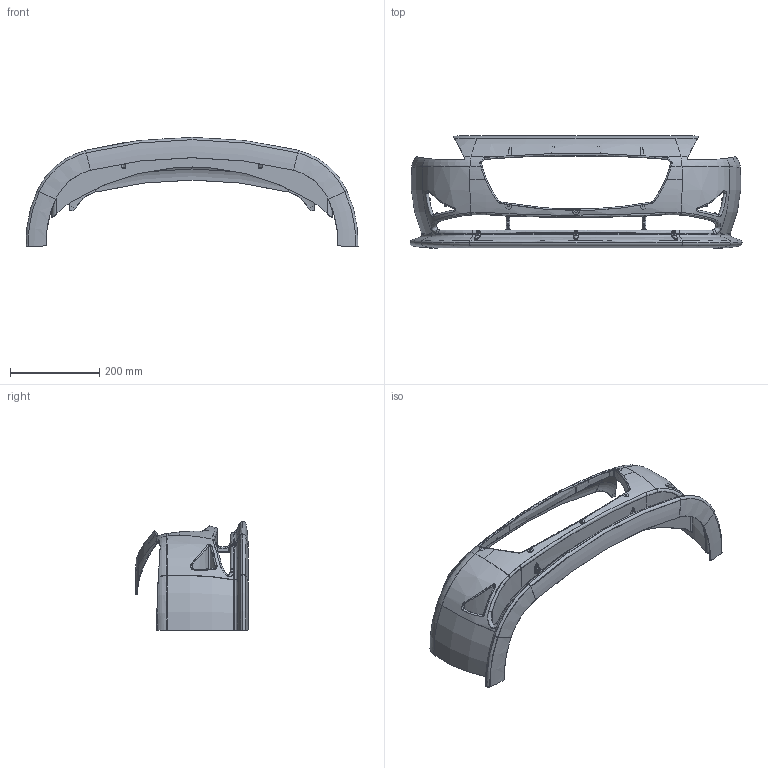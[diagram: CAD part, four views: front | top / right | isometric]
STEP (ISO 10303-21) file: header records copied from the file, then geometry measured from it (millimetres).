
FILE_DESCRIPTION(('STEP AP214'),'1');
FILE_NAME('frontschuerze-bumper.stp','2020-07-21T01:29:23',('3D-Tool'),(' '),'Spatial InterOp 3D',' ',' ');
FILE_SCHEMA(('AUTOMOTIVE_DESIGN { 1 0 10303 214 1 1 1 1 }'));
Length unit declared in the file: millimetre
Products named in the file (2): FRONTSCHUERZE_ZSB_ASM; FRONTSCHUERZE
Assembly tree (1 placements, depth 2):
  FRONTSCHUERZE_ZSB_ASM
    FRONTSCHUERZE
Bounding box: 743.32 x 250.86 x 244.46 mm (x, y, z)
Volume: 534869.6 mm3; surface area: 711347.8 mm2
Topology: 1 solids, 1 shells, 1162 faces, 2761 edges, 1596 vertices
Faces by surface type: bspline 441, torus 364, cylinder 242, plane 65, cone 34, sphere 16
Entity records: 86506 total; most frequent: CARTESIAN_POINT 38616, ORIENTED_EDGE 5504, DIRECTION 4816, STYLED_ITEM 3785, PRESENTATION_STYLE_ASSIGNMENT 3785, COLOUR_RGB 3785, EDGE_CURVE 2752, CURVE_STYLE 2624
